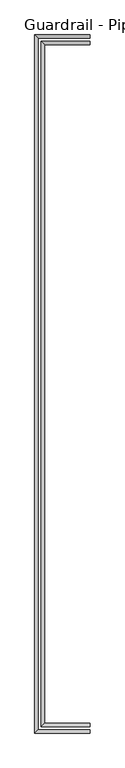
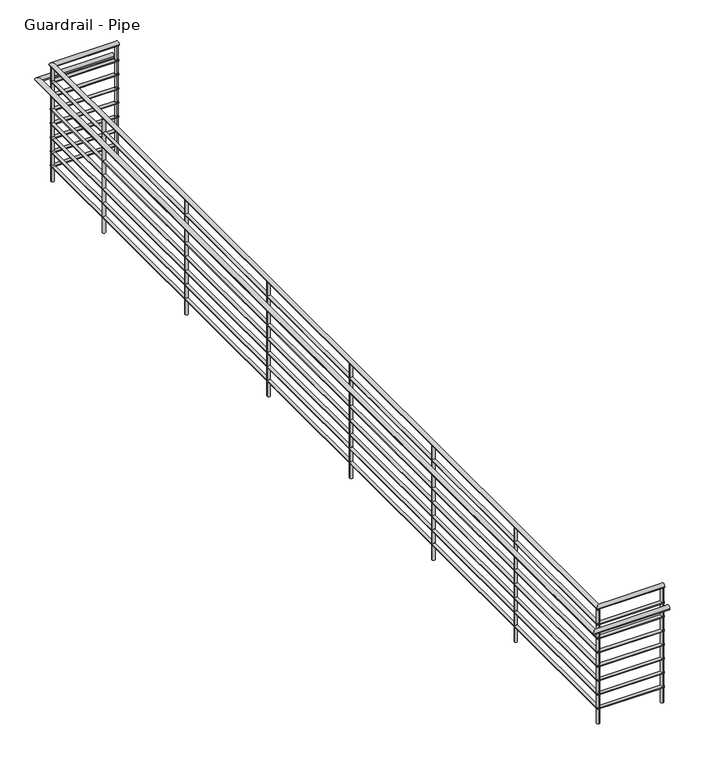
"""IFC4 building model written with IfcOpenShell, lengths in millimetres: railing geometry, Guardrail - Pipe."""

import ifcopenshell
import ifcopenshell.guid

model = None  # the IFC model being written
_history = None  # IfcOwnerHistory: only IFC2X3 demands one
_inside = {}  # id of a spatial element -> (the spatial element, [elements in it])
_under = {}  # id of a project, library or spatial element -> (it, [spatial elements below it])
_declared = {}  # id of a project -> (the project, [libraries it declares])
_typed = {}  # id of a type object -> (the type object, [elements of that type])
_made_of = {}  # id of a material, layer set ... -> (it, [elements and type objects made of it])


def new_model(schema):
    """Start an empty IFC model of exactly this schema.

    Asked for "IFC4X3", IfcOpenShell would pick the latest addendum, in which some entities
    have other attributes; the version numbers below select the first issue.
    IFC2X3 requires an IfcOwnerHistory on every rooted entity: one is made here for all.
    """
    global model, _history
    if schema == "IFC4X3":
        model = ifcopenshell.file(schema_version=(4, 3, 0, 0))
    else:
        model = ifcopenshell.file(schema=schema)
    _inside.clear()
    _under.clear()
    _declared.clear()
    _typed.clear()
    _made_of.clear()
    _history = None
    if model.schema == "IFC2X3":
        org = make("IfcOrganization", Name="unknown")
        user = make(
            "IfcPersonAndOrganization",
            ThePerson=make("IfcPerson", FamilyName="unknown"),
            TheOrganization=org,
        )
        app = make(
            "IfcApplication",
            ApplicationDeveloper=org,
            Version="unknown",
            ApplicationFullName="unknown",
            ApplicationIdentifier="unknown",
        )
        _history = make(
            "IfcOwnerHistory",
            OwningUser=user,
            OwningApplication=app,
            ChangeAction="ADDED",
            CreationDate=0,
        )
    return model


def make(cls, **values):
    """One entity of the class cls with the attributes given. An attribute that is None is left unset."""
    return model.create_entity(
        cls, **{name: value for name, value in values.items() if value is not None}
    )


def rooted(cls, **values):
    """An entity with a GlobalId (a new one), such as an element, a storey or a relation."""
    return make(cls, GlobalId=ifcopenshell.guid.new(), OwnerHistory=_history, **values)


def si_unit(unit_type, name, prefix=None):
    """IfcSIUnit, for example si_unit("LENGTHUNIT", "METRE", prefix="MILLI")."""
    return make("IfcSIUnit", UnitType=unit_type, Prefix=prefix, Name=name)


def assignment(units):
    """IfcUnitAssignment: the units of a project."""
    return None if units is None else make("IfcUnitAssignment", Units=units)


def point(xyz):
    """IfcCartesianPoint."""
    return None if xyz is None else make("IfcCartesianPoint", Coordinates=xyz)


def direction(xyz):
    """IfcDirection."""
    return None if xyz is None else make("IfcDirection", DirectionRatios=xyz)


def frame(location, z_axis=None, x_axis=None):
    """IfcAxis2Placement3D, a coordinate frame: its origin and axes. An axis left out is left unset."""
    return make(
        "IfcAxis2Placement3D",
        Location=point(location),
        Axis=direction(z_axis),
        RefDirection=direction(x_axis),
    )


def frame_2d(location, x_axis=None):
    """IfcAxis2Placement2D, a coordinate frame in the plane: its origin and x axis."""
    return make(
        "IfcAxis2Placement2D", Location=point(location), RefDirection=direction(x_axis)
    )


def origin():
    """The frame at (0, 0, 0) with its axes left unset."""
    return frame((0.0, 0.0, 0.0))


def place(relative_to, where):
    """IfcLocalPlacement: puts the frame where relative to a parent placement (None: the world)."""
    return make(
        "IfcLocalPlacement", PlacementRelTo=relative_to, RelativePlacement=where
    )


def context(
    kind, dimensions, precision=None, world=None, true_north=None, identifier=None
):
    """IfcGeometricRepresentationContext, for example the 3D "Model" context."""
    return make(
        "IfcGeometricRepresentationContext",
        ContextIdentifier=identifier,
        ContextType=kind,
        CoordinateSpaceDimension=dimensions,
        Precision=precision,
        WorldCoordinateSystem=world,
        TrueNorth=true_north,
    )


def project(units=None, contexts=None):
    """IfcProject with its units and contexts."""
    return rooted(
        "IfcProject",
        Name="project",
        RepresentationContexts=contexts,
        UnitsInContext=assignment(units),
    )


def spatial(cls, under=None, at=None, **own):
    """A site, building, storey or space (cls), placed at a placement, below another one or the project."""
    s = rooted(cls, ObjectPlacement=at, **own)
    if under is not None:
        _under.setdefault(under.id(), (under, []))[1].append(s)
    return s


def circle_curve(where, radius):
    """IfcCircle in the frame where."""
    return make("IfcCircle", Position=where, Radius=radius)


def ellipse_curve(where, semi_axis1, semi_axis2):
    """IfcEllipse in the frame where."""
    return make(
        "IfcEllipse", Position=where, SemiAxis1=semi_axis1, SemiAxis2=semi_axis2
    )


def trimmed(basis, trim1, trim2, sense, master):
    """IfcTrimmedCurve: the piece of a basis curve between two trims."""
    return make(
        "IfcTrimmedCurve",
        BasisCurve=basis,
        Trim1=trim1,
        Trim2=trim2,
        SenseAgreement=sense,
        MasterRepresentation=master,
    )


def segment(curve, same_sense, transition):
    """IfcCompositeCurveSegment."""
    return make(
        "IfcCompositeCurveSegment",
        Transition=transition,
        SameSense=same_sense,
        ParentCurve=curve,
    )


def composite_curve(segments, self_intersect=None):
    """IfcCompositeCurve: segments joined end to end."""
    return make("IfcCompositeCurve", Segments=segments, SelfIntersect=self_intersect)


def outline(outer, holes=None, kind="AREA"):
    """IfcArbitraryClosedProfileDef: a profile drawn as a closed curve; with holes, ...WithVoids."""
    if holes is None:
        return make("IfcArbitraryClosedProfileDef", ProfileType=kind, OuterCurve=outer)
    return make(
        "IfcArbitraryProfileDefWithVoids",
        ProfileType=kind,
        OuterCurve=outer,
        InnerCurves=holes,
    )


def extrude(swept, where, along, depth):
    """IfcExtrudedAreaSolid: the profile swept, set in the frame where, extruded along a direction by depth."""
    return make(
        "IfcExtrudedAreaSolid",
        SweptArea=swept,
        Position=where,
        ExtrudedDirection=direction(along),
        Depth=depth,
    )


def shape(context_of_items, identifier, shape_type, items):
    """IfcShapeRepresentation: the items that make up one representation, for example the "Body"."""
    return make(
        "IfcShapeRepresentation",
        ContextOfItems=context_of_items,
        RepresentationIdentifier=identifier,
        RepresentationType=shape_type,
        Items=items,
    )


def source(mapping_origin, context_of_items, identifier, shape_type, items):
    """IfcRepresentationMap: a shape defined once, which mapped items show again and again."""
    return make(
        "IfcRepresentationMap",
        MappingOrigin=mapping_origin,
        MappedRepresentation=shape(context_of_items, identifier, shape_type, items),
    )


def transform(
    local_origin,
    x_axis=None,
    y_axis=None,
    z_axis=None,
    scale=None,
    scale2=None,
    scale3=None,
    uniform=True,
):
    """IfcCartesianTransformationOperator3D, or its non-uniform kind. x_axis, y_axis, z_axis: its Axis1, 2, 3."""
    if uniform:
        return make(
            "IfcCartesianTransformationOperator3D",
            Axis1=direction(x_axis),
            Axis2=direction(y_axis),
            LocalOrigin=point(local_origin),
            Scale=scale,
            Axis3=direction(z_axis),
        )
    return make(
        "IfcCartesianTransformationOperator3DnonUniform",
        Axis1=direction(x_axis),
        Axis2=direction(y_axis),
        LocalOrigin=point(local_origin),
        Scale=scale,
        Axis3=direction(z_axis),
        Scale2=scale2,
        Scale3=scale3,
    )


def mapped(mapping_source, mapping_target):
    """IfcMappedItem: shows the shape of a source again, moved by a transform."""
    return make(
        "IfcMappedItem", MappingSource=mapping_source, MappingTarget=mapping_target
    )


def made_of(thing, what):
    """Note that an element or type object is made of a material, layer set ...; save() writes the relation."""
    if what is not None:
        _made_of.setdefault(what.id(), (what, []))[1].append(thing)
    return thing


def element(
    cls,
    number,
    at=None,
    inside=None,
    cuts=None,
    type_object=None,
    material=None,
    context=None,
    identifier="Body",
    shape_type=None,
    held_by="IfcProductDefinitionShape",
    body=None,
    shapes=None,
    **own,
):
    """One element of the class cls, such as IfcWall. Its Tag is "e" and its number.

    at: its placement. inside: the storey or other place that contains it. cuts: it is an
    opening in that element (IfcRelVoidsElement). A single representation is given by context,
    identifier, shape_type and body (its items); several are given by shapes. held_by: the class
    of the entity that holds the representations. save() writes the other relations.
    """
    e = rooted(cls, Tag="e%d" % number, ObjectPlacement=at, **own)
    if body is not None:
        shapes = [shape(context, identifier, shape_type, body)]
    if shapes is not None:
        e.Representation = make(held_by, Representations=shapes)
    if inside is not None:
        _inside.setdefault(inside.id(), (inside, []))[1].append(e)
    if cuts is not None:
        rooted(
            "IfcRelVoidsElement", RelatingBuildingElement=cuts, RelatedOpeningElement=e
        )
    if type_object is not None:
        _typed.setdefault(type_object.id(), (type_object, []))[1].append(e)
    return made_of(e, material)


def aggregate(whole, parts):
    """IfcRelAggregates: a whole, such as a stair, and the parts it consists of."""
    return rooted("IfcRelAggregates", RelatingObject=whole, RelatedObjects=parts)


def save(model, path):
    """Write the relations noted so far, then the file.

    IfcRelAggregates (storeys below a building ...), IfcRelContainedInSpatialStructure (elements
    in a storey), IfcRelDefinesByType, IfcRelAssociatesMaterial and IfcRelDeclares: one each for
    every whole, place, type object, material and project.
    """
    for whole, parts in _under.values():
        aggregate(whole, parts)
    for where, things in _inside.values():
        rooted(
            "IfcRelContainedInSpatialStructure",
            RelatedElements=things,
            RelatingStructure=where,
        )
    for kind, things in _typed.values():
        rooted("IfcRelDefinesByType", RelatedObjects=things, RelatingType=kind)
    for what, things in _made_of.values():
        rooted("IfcRelAssociatesMaterial", RelatedObjects=things, RelatingMaterial=what)
    for by, libraries in _declared.values():
        rooted("IfcRelDeclares", RelatingContext=by, RelatedDefinitions=libraries)
    model.write(path)


def plane_surface(at):
    """IfcPlane: the flat surface through the origin of the frame at, square to its z axis."""
    return make("IfcPlane", Position=at)


def cylinder_surface(at, radius):
    """IfcCylindricalSurface: all points at the distance radius from the z axis of the frame at."""
    return make("IfcCylindricalSurface", Position=at, Radius=radius)


def advanced_brep(points, edges, surfaces, faces):
    """IfcAdvancedBrep: a solid bounded by faces that lie on surfaces and meet in shared edges.

    An edge is (start, end): straight between two places in points (the first is 0);
    or (start, end, curve); or (start, end, curve, False) where it runs against its curve.
    A face is (place in surfaces, loops), or (place, loops, False) where it looks against
    its surface's normal. A loop lists edges by number (the first is 1), with a minus sign
    where the edge is run from its end to its start. The first loop is the outer one.
    """
    corners = [point(p) for p in points]
    vertices = [make("IfcVertexPoint", VertexGeometry=c) for c in corners]
    made = []
    for start, end, *more in edges:
        made.append(
            make(
                "IfcEdgeCurve",
                EdgeStart=vertices[start],
                EdgeEnd=vertices[end],
                EdgeGeometry=more[0] if more else make("IfcPolyline", Points=[corners[start], corners[end]]),
                SameSense=more[1] if len(more) > 1 else True,
            )
        )
    hull = []
    for where, loops, *sense in faces:
        bounds = []
        for j, loop in enumerate(loops):
            ring = [make("IfcOrientedEdge", EdgeElement=made[abs(k) - 1], Orientation=k > 0) for k in loop]
            bounds.append(
                make(
                    "IfcFaceOuterBound" if j == 0 else "IfcFaceBound",
                    Bound=make("IfcEdgeLoop", EdgeList=ring),
                    Orientation=True,
                )
            )
        hull.append(make("IfcAdvancedFace", Bounds=bounds, FaceSurface=surfaces[where], SameSense=sense[0] if sense else True))
    return make("IfcAdvancedBrep", Outer=make("IfcClosedShell", CfsFaces=hull))


def guardrail_pipe_d5d2aec2(model_context):
    return source(origin(), model_context, "Body", "SolidModel", [
        advanced_brep(
        [(11534.3313551, 21840.75, 4705.35), (11534.3313551, 21878.85, 4705.35), (10956.4813551, 21840.75, 4705.35), (10994.5813551, 21878.85, 4705.35), (10956.4813551, 29956.05, 4705.35), (10994.5813551, 29917.95, 4705.35), (11534.3313551, 29956.05, 4705.35), (11534.3313551, 29917.95, 4705.35)],
        [
            (0, 1, circle_curve(frame((11534.3313551, 21859.8, 4705.35), z_axis=(1.0, 0.0, 0.0), x_axis=(0.0, 1.0, 0.0)), 19.05)),
            (1, 0, circle_curve(frame((11534.3313551, 21859.8, 4705.35), z_axis=(1.0, 0.0, 0.0), x_axis=(0.0, 1.0, 0.0)), 19.05)),
            (0, 2),
            (2, 3, ellipse_curve(frame((10975.5313551, 21859.8, 4705.35), z_axis=(0.7071067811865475, -0.7071067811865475, 0.0), x_axis=(0.7071067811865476, 0.7071067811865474, 0.0)), 26.9407684, 19.05)),
            (3, 1),
            (3, 2, ellipse_curve(frame((10975.5313551, 21859.8, 4705.35), z_axis=(0.7071067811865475, -0.7071067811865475, 0.0), x_axis=(0.7071067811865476, 0.7071067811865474, 0.0)), 26.9407684, 19.05)),
            (2, 4),
            (4, 5, ellipse_curve(frame((10975.5313551, 29937.0, 4705.35), z_axis=(-0.7071067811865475, -0.7071067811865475, 0.0), x_axis=(0.7071067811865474, -0.7071067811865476, 0.0)), 26.9407684, 19.05)),
            (5, 3),
            (5, 4, ellipse_curve(frame((10975.5313551, 29937.0, 4705.35), z_axis=(-0.7071067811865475, -0.7071067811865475, 0.0), x_axis=(0.7071067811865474, -0.7071067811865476, 0.0)), 26.9407684, 19.05)),
            (6, 7, circle_curve(frame((11534.3313551, 29937.0, 4705.35), z_axis=(1.0, 0.0, 0.0), x_axis=(0.0, -1.0, 0.0)), 19.05)),
            (7, 6, circle_curve(frame((11534.3313551, 29937.0, 4705.35), z_axis=(1.0, 0.0, 0.0), x_axis=(0.0, -1.0, 0.0)), 19.05)),
            (4, 6),
            (7, 5),
        ],
        [
            plane_surface(frame((11534.3313551, 21859.8, 4724.4), z_axis=(1.0, 0.0, 0.0), x_axis=(0.0, -1.0, 0.0))),
            cylinder_surface(frame((11534.3313551, 21859.8, 4705.35), z_axis=(1.0, 0.0, 0.0), x_axis=(0.0, 1.0, 0.0)), 19.05),
            cylinder_surface(frame((10975.5313551, 21859.8, 4705.35), z_axis=(0.0, -1.0, 0.0), x_axis=(1.0, 0.0, 0.0)), 19.05),
            plane_surface(frame((11534.3313551, 29937.0, 4724.4), z_axis=(1.0, 0.0, 0.0), x_axis=(0.0, 1.0, 0.0))),
            cylinder_surface(frame((10975.5313551, 29937.0, 4705.35), z_axis=(-1.0, 0.0, 0.0), x_axis=(0.0, -1.0, 0.0)), 19.05),
        ],
        [
            (0, [[1, 2]]),
            (1, [[-1, 3, 4, 5]]),
            (1, [[-2, -5, 6, -3]]),
            (2, [[-4, 7, 8, 9]]),
            (2, [[-6, -9, 10, -7]]),
            (3, [[11, 12]]),
            (4, [[-8, 13, -12, 14]]),
            (4, [[-10, -14, -11, -13]]),
        ],
    ),
        advanced_brep(
        [(11534.3313551, 21847.1, 4559.3), (11534.3313551, 21872.5, 4559.3), (10962.8313551, 21847.1, 4559.3), (10988.2313551, 21872.5, 4559.3), (10962.8313551, 29949.7, 4559.3), (10988.2313551, 29924.3, 4559.3), (11534.3313551, 29949.7, 4559.3), (11534.3313551, 29924.3, 4559.3)],
        [
            (0, 1, circle_curve(frame((11534.3313551, 21859.8, 4559.3), z_axis=(1.0, 0.0, 0.0), x_axis=(0.0, 1.0, 0.0)), 12.7)),
            (1, 0, circle_curve(frame((11534.3313551, 21859.8, 4559.3), z_axis=(1.0, 0.0, 0.0), x_axis=(0.0, 1.0, 0.0)), 12.7)),
            (0, 2),
            (2, 3, ellipse_curve(frame((10975.5313551, 21859.8, 4559.3), z_axis=(0.7071067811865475, -0.7071067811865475, 0.0), x_axis=(0.7071067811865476, 0.7071067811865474, 0.0)), 17.9605122, 12.7)),
            (3, 1),
            (3, 2, ellipse_curve(frame((10975.5313551, 21859.8, 4559.3), z_axis=(0.7071067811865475, -0.7071067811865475, 0.0), x_axis=(0.7071067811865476, 0.7071067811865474, 0.0)), 17.9605122, 12.7)),
            (2, 4),
            (4, 5, ellipse_curve(frame((10975.5313551, 29937.0, 4559.3), z_axis=(-0.7071067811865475, -0.7071067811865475, 0.0), x_axis=(0.7071067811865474, -0.7071067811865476, 0.0)), 17.9605122, 12.7)),
            (5, 3),
            (5, 4, ellipse_curve(frame((10975.5313551, 29937.0, 4559.3), z_axis=(-0.7071067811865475, -0.7071067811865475, 0.0), x_axis=(0.7071067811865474, -0.7071067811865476, 0.0)), 17.9605122, 12.7)),
            (6, 7, circle_curve(frame((11534.3313551, 29937.0, 4559.3), z_axis=(1.0, 0.0, 0.0), x_axis=(0.0, -1.0, 0.0)), 12.7)),
            (7, 6, circle_curve(frame((11534.3313551, 29937.0, 4559.3), z_axis=(1.0, 0.0, 0.0), x_axis=(0.0, -1.0, 0.0)), 12.7)),
            (4, 6),
            (7, 5),
        ],
        [
            plane_surface(frame((11534.3313551, 21859.8, 4572.0), z_axis=(1.0, 0.0, 0.0), x_axis=(0.0, -1.0, 0.0))),
            cylinder_surface(frame((11534.3313551, 21859.8, 4559.3), z_axis=(1.0, 0.0, 0.0), x_axis=(0.0, 1.0, 0.0)), 12.7),
            cylinder_surface(frame((10975.5313551, 21859.8, 4559.3), z_axis=(0.0, -1.0, 0.0), x_axis=(1.0, 0.0, 0.0)), 12.7),
            plane_surface(frame((11534.3313551, 29937.0, 4572.0), z_axis=(1.0, 0.0, 0.0), x_axis=(0.0, 1.0, 0.0))),
            cylinder_surface(frame((10975.5313551, 29937.0, 4559.3), z_axis=(-1.0, 0.0, 0.0), x_axis=(0.0, -1.0, 0.0)), 12.7),
        ],
        [
            (0, [[1, 2]]),
            (1, [[-1, 3, 4, 5]]),
            (1, [[-2, -5, 6, -3]]),
            (2, [[-4, 7, 8, 9]]),
            (2, [[-6, -9, 10, -7]]),
            (3, [[11, 12]]),
            (4, [[-8, 13, -12, 14]]),
            (4, [[-10, -14, -11, -13]]),
        ],
    ),
        advanced_brep(
        [(11534.3313551, 21764.55, 4552.95), (11534.3313551, 21802.65, 4552.95), (10880.2813551, 21764.55, 4552.95), (10918.3813551, 21802.65, 4552.95), (10880.2813551, 30032.25, 4552.95), (10918.3813551, 29994.15, 4552.95), (11534.3313551, 30032.25, 4552.95), (11534.3313551, 29994.15, 4552.95)],
        [
            (0, 1, circle_curve(frame((11534.3313551, 21783.6, 4552.95), z_axis=(1.0, 0.0, 0.0), x_axis=(0.0, 1.0, 0.0)), 19.05)),
            (1, 0, circle_curve(frame((11534.3313551, 21783.6, 4552.95), z_axis=(1.0, 0.0, 0.0), x_axis=(0.0, 1.0, 0.0)), 19.05)),
            (0, 2),
            (2, 3, ellipse_curve(frame((10899.3313551, 21783.6, 4552.95), z_axis=(0.7071067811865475, -0.7071067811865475, 0.0), x_axis=(0.7071067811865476, 0.7071067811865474, 0.0)), 26.9407684, 19.05)),
            (3, 1),
            (3, 2, ellipse_curve(frame((10899.3313551, 21783.6, 4552.95), z_axis=(0.7071067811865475, -0.7071067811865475, 0.0), x_axis=(0.7071067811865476, 0.7071067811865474, 0.0)), 26.9407684, 19.05)),
            (2, 4),
            (4, 5, ellipse_curve(frame((10899.3313551, 30013.2, 4552.95), z_axis=(-0.7071067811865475, -0.7071067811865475, 0.0), x_axis=(0.7071067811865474, -0.7071067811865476, 0.0)), 26.9407684, 19.05)),
            (5, 3),
            (5, 4, ellipse_curve(frame((10899.3313551, 30013.2, 4552.95), z_axis=(-0.7071067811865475, -0.7071067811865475, 0.0), x_axis=(0.7071067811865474, -0.7071067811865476, 0.0)), 26.9407684, 19.05)),
            (6, 7, circle_curve(frame((11534.3313551, 30013.2, 4552.95), z_axis=(1.0, 0.0, 0.0), x_axis=(0.0, -1.0, 0.0)), 19.05)),
            (7, 6, circle_curve(frame((11534.3313551, 30013.2, 4552.95), z_axis=(1.0, 0.0, 0.0), x_axis=(0.0, -1.0, 0.0)), 19.05)),
            (4, 6),
            (7, 5),
        ],
        [
            plane_surface(frame((11534.3313551, 21783.6, 4572.0), z_axis=(1.0, 0.0, 0.0), x_axis=(0.0, -1.0, 0.0))),
            cylinder_surface(frame((11534.3313551, 21783.6, 4552.95), z_axis=(1.0, 0.0, 0.0), x_axis=(0.0, 1.0, 0.0)), 19.05),
            cylinder_surface(frame((10899.3313551, 21783.6, 4552.95), z_axis=(0.0, -1.0, 0.0), x_axis=(1.0, 0.0, 0.0)), 19.05),
            plane_surface(frame((11534.3313551, 30013.2, 4572.0), z_axis=(1.0, 0.0, 0.0), x_axis=(0.0, 1.0, 0.0))),
            cylinder_surface(frame((10899.3313551, 30013.2, 4552.95), z_axis=(-1.0, 0.0, 0.0), x_axis=(0.0, -1.0, 0.0)), 19.05),
        ],
        [
            (0, [[1, 2]]),
            (1, [[-1, 3, 4, 5]]),
            (1, [[-2, -5, 6, -3]]),
            (2, [[-4, 7, 8, 9]]),
            (2, [[-6, -9, 10, -7]]),
            (3, [[11, 12]]),
            (4, [[-8, 13, -12, 14]]),
            (4, [[-10, -14, -11, -13]]),
        ],
    ),
        advanced_brep(
        [(11534.3313551, 21847.1, 4432.3), (11534.3313551, 21872.5, 4432.3), (10962.8313551, 21847.1, 4432.3), (10988.2313551, 21872.5, 4432.3), (10962.8313551, 29949.7, 4432.3), (10988.2313551, 29924.3, 4432.3), (11534.3313551, 29949.7, 4432.3), (11534.3313551, 29924.3, 4432.3)],
        [
            (0, 1, circle_curve(frame((11534.3313551, 21859.8, 4432.3), z_axis=(1.0, 0.0, 0.0), x_axis=(0.0, 1.0, 0.0)), 12.7)),
            (1, 0, circle_curve(frame((11534.3313551, 21859.8, 4432.3), z_axis=(1.0, 0.0, 0.0), x_axis=(0.0, 1.0, 0.0)), 12.7)),
            (0, 2),
            (2, 3, ellipse_curve(frame((10975.5313551, 21859.8, 4432.3), z_axis=(0.7071067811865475, -0.7071067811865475, 0.0), x_axis=(0.7071067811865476, 0.7071067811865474, 0.0)), 17.9605122, 12.7)),
            (3, 1),
            (3, 2, ellipse_curve(frame((10975.5313551, 21859.8, 4432.3), z_axis=(0.7071067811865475, -0.7071067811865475, 0.0), x_axis=(0.7071067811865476, 0.7071067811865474, 0.0)), 17.9605122, 12.7)),
            (2, 4),
            (4, 5, ellipse_curve(frame((10975.5313551, 29937.0, 4432.3), z_axis=(-0.7071067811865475, -0.7071067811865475, 0.0), x_axis=(0.7071067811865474, -0.7071067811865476, 0.0)), 17.9605122, 12.7)),
            (5, 3),
            (5, 4, ellipse_curve(frame((10975.5313551, 29937.0, 4432.3), z_axis=(-0.7071067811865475, -0.7071067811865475, 0.0), x_axis=(0.7071067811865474, -0.7071067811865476, 0.0)), 17.9605122, 12.7)),
            (6, 7, circle_curve(frame((11534.3313551, 29937.0, 4432.3), z_axis=(1.0, 0.0, 0.0), x_axis=(0.0, -1.0, 0.0)), 12.7)),
            (7, 6, circle_curve(frame((11534.3313551, 29937.0, 4432.3), z_axis=(1.0, 0.0, 0.0), x_axis=(0.0, -1.0, 0.0)), 12.7)),
            (4, 6),
            (7, 5),
        ],
        [
            plane_surface(frame((11534.3313551, 21859.8, 4445.0), z_axis=(1.0, 0.0, 0.0), x_axis=(0.0, -1.0, 0.0))),
            cylinder_surface(frame((11534.3313551, 21859.8, 4432.3), z_axis=(1.0, 0.0, 0.0), x_axis=(0.0, 1.0, 0.0)), 12.7),
            cylinder_surface(frame((10975.5313551, 21859.8, 4432.3), z_axis=(0.0, -1.0, 0.0), x_axis=(1.0, 0.0, 0.0)), 12.7),
            plane_surface(frame((11534.3313551, 29937.0, 4445.0), z_axis=(1.0, 0.0, 0.0), x_axis=(0.0, 1.0, 0.0))),
            cylinder_surface(frame((10975.5313551, 29937.0, 4432.3), z_axis=(-1.0, 0.0, 0.0), x_axis=(0.0, -1.0, 0.0)), 12.7),
        ],
        [
            (0, [[1, 2]]),
            (1, [[-1, 3, 4, 5]]),
            (1, [[-2, -5, 6, -3]]),
            (2, [[-4, 7, 8, 9]]),
            (2, [[-6, -9, 10, -7]]),
            (3, [[11, 12]]),
            (4, [[-8, 13, -12, 14]]),
            (4, [[-10, -14, -11, -13]]),
        ],
    ),
        advanced_brep(
        [(11534.3313551, 21847.1, 4305.3), (11534.3313551, 21872.5, 4305.3), (10962.8313551, 21847.1, 4305.3), (10988.2313551, 21872.5, 4305.3), (10962.8313551, 29949.7, 4305.3), (10988.2313551, 29924.3, 4305.3), (11534.3313551, 29949.7, 4305.3), (11534.3313551, 29924.3, 4305.3)],
        [
            (0, 1, circle_curve(frame((11534.3313551, 21859.8, 4305.3), z_axis=(1.0, 0.0, 0.0), x_axis=(0.0, 1.0, 0.0)), 12.7)),
            (1, 0, circle_curve(frame((11534.3313551, 21859.8, 4305.3), z_axis=(1.0, 0.0, 0.0), x_axis=(0.0, 1.0, 0.0)), 12.7)),
            (0, 2),
            (2, 3, ellipse_curve(frame((10975.5313551, 21859.8, 4305.3), z_axis=(0.7071067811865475, -0.7071067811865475, 0.0), x_axis=(0.7071067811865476, 0.7071067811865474, 0.0)), 17.9605122, 12.7)),
            (3, 1),
            (3, 2, ellipse_curve(frame((10975.5313551, 21859.8, 4305.3), z_axis=(0.7071067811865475, -0.7071067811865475, 0.0), x_axis=(0.7071067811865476, 0.7071067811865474, 0.0)), 17.9605122, 12.7)),
            (2, 4),
            (4, 5, ellipse_curve(frame((10975.5313551, 29937.0, 4305.3), z_axis=(-0.7071067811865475, -0.7071067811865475, 0.0), x_axis=(0.7071067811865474, -0.7071067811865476, 0.0)), 17.9605122, 12.7)),
            (5, 3),
            (5, 4, ellipse_curve(frame((10975.5313551, 29937.0, 4305.3), z_axis=(-0.7071067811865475, -0.7071067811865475, 0.0), x_axis=(0.7071067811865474, -0.7071067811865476, 0.0)), 17.9605122, 12.7)),
            (6, 7, circle_curve(frame((11534.3313551, 29937.0, 4305.3), z_axis=(1.0, 0.0, 0.0), x_axis=(0.0, -1.0, 0.0)), 12.7)),
            (7, 6, circle_curve(frame((11534.3313551, 29937.0, 4305.3), z_axis=(1.0, 0.0, 0.0), x_axis=(0.0, -1.0, 0.0)), 12.7)),
            (4, 6),
            (7, 5),
        ],
        [
            plane_surface(frame((11534.3313551, 21859.8, 4318.0), z_axis=(1.0, 0.0, 0.0), x_axis=(0.0, -1.0, 0.0))),
            cylinder_surface(frame((11534.3313551, 21859.8, 4305.3), z_axis=(1.0, 0.0, 0.0), x_axis=(0.0, 1.0, 0.0)), 12.7),
            cylinder_surface(frame((10975.5313551, 21859.8, 4305.3), z_axis=(0.0, -1.0, 0.0), x_axis=(1.0, 0.0, 0.0)), 12.7),
            plane_surface(frame((11534.3313551, 29937.0, 4318.0), z_axis=(1.0, 0.0, 0.0), x_axis=(0.0, 1.0, 0.0))),
            cylinder_surface(frame((10975.5313551, 29937.0, 4305.3), z_axis=(-1.0, 0.0, 0.0), x_axis=(0.0, -1.0, 0.0)), 12.7),
        ],
        [
            (0, [[1, 2]]),
            (1, [[-1, 3, 4, 5]]),
            (1, [[-2, -5, 6, -3]]),
            (2, [[-4, 7, 8, 9]]),
            (2, [[-6, -9, 10, -7]]),
            (3, [[11, 12]]),
            (4, [[-8, 13, -12, 14]]),
            (4, [[-10, -14, -11, -13]]),
        ],
    ),
        advanced_brep(
        [(11534.3313551, 21847.1, 4178.3), (11534.3313551, 21872.5, 4178.3), (10962.8313551, 21847.1, 4178.3), (10988.2313551, 21872.5, 4178.3), (10962.8313551, 29949.7, 4178.3), (10988.2313551, 29924.3, 4178.3), (11534.3313551, 29949.7, 4178.3), (11534.3313551, 29924.3, 4178.3)],
        [
            (0, 1, circle_curve(frame((11534.3313551, 21859.8, 4178.3), z_axis=(1.0, 0.0, 0.0), x_axis=(0.0, 1.0, 0.0)), 12.7)),
            (1, 0, circle_curve(frame((11534.3313551, 21859.8, 4178.3), z_axis=(1.0, 0.0, 0.0), x_axis=(0.0, 1.0, 0.0)), 12.7)),
            (0, 2),
            (2, 3, ellipse_curve(frame((10975.5313551, 21859.8, 4178.3), z_axis=(0.7071067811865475, -0.7071067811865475, 0.0), x_axis=(0.7071067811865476, 0.7071067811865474, 0.0)), 17.9605122, 12.7)),
            (3, 1),
            (3, 2, ellipse_curve(frame((10975.5313551, 21859.8, 4178.3), z_axis=(0.7071067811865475, -0.7071067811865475, 0.0), x_axis=(0.7071067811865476, 0.7071067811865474, 0.0)), 17.9605122, 12.7)),
            (2, 4),
            (4, 5, ellipse_curve(frame((10975.5313551, 29937.0, 4178.3), z_axis=(-0.7071067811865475, -0.7071067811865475, 0.0), x_axis=(0.7071067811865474, -0.7071067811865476, 0.0)), 17.9605122, 12.7)),
            (5, 3),
            (5, 4, ellipse_curve(frame((10975.5313551, 29937.0, 4178.3), z_axis=(-0.7071067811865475, -0.7071067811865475, 0.0), x_axis=(0.7071067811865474, -0.7071067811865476, 0.0)), 17.9605122, 12.7)),
            (6, 7, circle_curve(frame((11534.3313551, 29937.0, 4178.3), z_axis=(1.0, 0.0, 0.0), x_axis=(0.0, -1.0, 0.0)), 12.7)),
            (7, 6, circle_curve(frame((11534.3313551, 29937.0, 4178.3), z_axis=(1.0, 0.0, 0.0), x_axis=(0.0, -1.0, 0.0)), 12.7)),
            (4, 6),
            (7, 5),
        ],
        [
            plane_surface(frame((11534.3313551, 21859.8, 4191.0), z_axis=(1.0, 0.0, 0.0), x_axis=(0.0, -1.0, 0.0))),
            cylinder_surface(frame((11534.3313551, 21859.8, 4178.3), z_axis=(1.0, 0.0, 0.0), x_axis=(0.0, 1.0, 0.0)), 12.7),
            cylinder_surface(frame((10975.5313551, 21859.8, 4178.3), z_axis=(0.0, -1.0, 0.0), x_axis=(1.0, 0.0, 0.0)), 12.7),
            plane_surface(frame((11534.3313551, 29937.0, 4191.0), z_axis=(1.0, 0.0, 0.0), x_axis=(0.0, 1.0, 0.0))),
            cylinder_surface(frame((10975.5313551, 29937.0, 4178.3), z_axis=(-1.0, 0.0, 0.0), x_axis=(0.0, -1.0, 0.0)), 12.7),
        ],
        [
            (0, [[1, 2]]),
            (1, [[-1, 3, 4, 5]]),
            (1, [[-2, -5, 6, -3]]),
            (2, [[-4, 7, 8, 9]]),
            (2, [[-6, -9, 10, -7]]),
            (3, [[11, 12]]),
            (4, [[-8, 13, -12, 14]]),
            (4, [[-10, -14, -11, -13]]),
        ],
    ),
        advanced_brep(
        [(11534.3313551, 21847.1, 4051.3), (11534.3313551, 21872.5, 4051.3), (10962.8313551, 21847.1, 4051.3), (10988.2313551, 21872.5, 4051.3), (10962.8313551, 29949.7, 4051.3), (10988.2313551, 29924.3, 4051.3), (11534.3313551, 29949.7, 4051.3), (11534.3313551, 29924.3, 4051.3)],
        [
            (0, 1, circle_curve(frame((11534.3313551, 21859.8, 4051.3), z_axis=(1.0, 0.0, 0.0), x_axis=(0.0, 1.0, 0.0)), 12.7)),
            (1, 0, circle_curve(frame((11534.3313551, 21859.8, 4051.3), z_axis=(1.0, 0.0, 0.0), x_axis=(0.0, 1.0, 0.0)), 12.7)),
            (0, 2),
            (2, 3, ellipse_curve(frame((10975.5313551, 21859.8, 4051.3), z_axis=(0.7071067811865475, -0.7071067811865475, 0.0), x_axis=(0.7071067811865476, 0.7071067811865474, 0.0)), 17.9605122, 12.7)),
            (3, 1),
            (3, 2, ellipse_curve(frame((10975.5313551, 21859.8, 4051.3), z_axis=(0.7071067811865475, -0.7071067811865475, 0.0), x_axis=(0.7071067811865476, 0.7071067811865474, 0.0)), 17.9605122, 12.7)),
            (2, 4),
            (4, 5, ellipse_curve(frame((10975.5313551, 29937.0, 4051.3), z_axis=(-0.7071067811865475, -0.7071067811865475, 0.0), x_axis=(0.7071067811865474, -0.7071067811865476, 0.0)), 17.9605122, 12.7)),
            (5, 3),
            (5, 4, ellipse_curve(frame((10975.5313551, 29937.0, 4051.3), z_axis=(-0.7071067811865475, -0.7071067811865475, 0.0), x_axis=(0.7071067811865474, -0.7071067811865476, 0.0)), 17.9605122, 12.7)),
            (6, 7, circle_curve(frame((11534.3313551, 29937.0, 4051.3), z_axis=(1.0, 0.0, 0.0), x_axis=(0.0, -1.0, 0.0)), 12.7)),
            (7, 6, circle_curve(frame((11534.3313551, 29937.0, 4051.3), z_axis=(1.0, 0.0, 0.0), x_axis=(0.0, -1.0, 0.0)), 12.7)),
            (4, 6),
            (7, 5),
        ],
        [
            plane_surface(frame((11534.3313551, 21859.8, 4064.0), z_axis=(1.0, 0.0, 0.0), x_axis=(0.0, -1.0, 0.0))),
            cylinder_surface(frame((11534.3313551, 21859.8, 4051.3), z_axis=(1.0, 0.0, 0.0), x_axis=(0.0, 1.0, 0.0)), 12.7),
            cylinder_surface(frame((10975.5313551, 21859.8, 4051.3), z_axis=(0.0, -1.0, 0.0), x_axis=(1.0, 0.0, 0.0)), 12.7),
            plane_surface(frame((11534.3313551, 29937.0, 4064.0), z_axis=(1.0, 0.0, 0.0), x_axis=(0.0, 1.0, 0.0))),
            cylinder_surface(frame((10975.5313551, 29937.0, 4051.3), z_axis=(-1.0, 0.0, 0.0), x_axis=(0.0, -1.0, 0.0)), 12.7),
        ],
        [
            (0, [[1, 2]]),
            (1, [[-1, 3, 4, 5]]),
            (1, [[-2, -5, 6, -3]]),
            (2, [[-4, 7, 8, 9]]),
            (2, [[-6, -9, 10, -7]]),
            (3, [[11, 12]]),
            (4, [[-8, 13, -12, 14]]),
            (4, [[-10, -14, -11, -13]]),
        ],
    ),
        advanced_brep(
        [(11534.3313551, 21847.1, 3924.3), (11534.3313551, 21872.5, 3924.3), (10962.8313551, 21847.1, 3924.3), (10988.2313551, 21872.5, 3924.3), (10962.8313551, 29949.7, 3924.3), (10988.2313551, 29924.3, 3924.3), (11534.3313551, 29949.7, 3924.3), (11534.3313551, 29924.3, 3924.3)],
        [
            (0, 1, circle_curve(frame((11534.3313551, 21859.8, 3924.3), z_axis=(1.0, 0.0, 0.0), x_axis=(0.0, 1.0, 0.0)), 12.7)),
            (1, 0, circle_curve(frame((11534.3313551, 21859.8, 3924.3), z_axis=(1.0, 0.0, 0.0), x_axis=(0.0, 1.0, 0.0)), 12.7)),
            (0, 2),
            (2, 3, ellipse_curve(frame((10975.5313551, 21859.8, 3924.3), z_axis=(0.7071067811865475, -0.7071067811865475, 0.0), x_axis=(0.7071067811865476, 0.7071067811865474, 0.0)), 17.9605122, 12.7)),
            (3, 1),
            (3, 2, ellipse_curve(frame((10975.5313551, 21859.8, 3924.3), z_axis=(0.7071067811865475, -0.7071067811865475, 0.0), x_axis=(0.7071067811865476, 0.7071067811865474, 0.0)), 17.9605122, 12.7)),
            (2, 4),
            (4, 5, ellipse_curve(frame((10975.5313551, 29937.0, 3924.3), z_axis=(-0.7071067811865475, -0.7071067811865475, 0.0), x_axis=(0.7071067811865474, -0.7071067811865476, 0.0)), 17.9605122, 12.7)),
            (5, 3),
            (5, 4, ellipse_curve(frame((10975.5313551, 29937.0, 3924.3), z_axis=(-0.7071067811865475, -0.7071067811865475, 0.0), x_axis=(0.7071067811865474, -0.7071067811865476, 0.0)), 17.9605122, 12.7)),
            (6, 7, circle_curve(frame((11534.3313551, 29937.0, 3924.3), z_axis=(1.0, 0.0, 0.0), x_axis=(0.0, -1.0, 0.0)), 12.7)),
            (7, 6, circle_curve(frame((11534.3313551, 29937.0, 3924.3), z_axis=(1.0, 0.0, 0.0), x_axis=(0.0, -1.0, 0.0)), 12.7)),
            (4, 6),
            (7, 5),
        ],
        [
            plane_surface(frame((11534.3313551, 21859.8, 3937.0), z_axis=(1.0, 0.0, 0.0), x_axis=(0.0, -1.0, 0.0))),
            cylinder_surface(frame((11534.3313551, 21859.8, 3924.3), z_axis=(1.0, 0.0, 0.0), x_axis=(0.0, 1.0, 0.0)), 12.7),
            cylinder_surface(frame((10975.5313551, 21859.8, 3924.3), z_axis=(0.0, -1.0, 0.0), x_axis=(1.0, 0.0, 0.0)), 12.7),
            plane_surface(frame((11534.3313551, 29937.0, 3937.0), z_axis=(1.0, 0.0, 0.0), x_axis=(0.0, 1.0, 0.0))),
            cylinder_surface(frame((10975.5313551, 29937.0, 3924.3), z_axis=(-1.0, 0.0, 0.0), x_axis=(0.0, -1.0, 0.0)), 12.7),
        ],
        [
            (0, [[1, 2]]),
            (1, [[-1, 3, 4, 5]]),
            (1, [[-2, -5, 6, -3]]),
            (2, [[-4, 7, 8, 9]]),
            (2, [[-6, -9, 10, -7]]),
            (3, [[11, 12]]),
            (4, [[-8, 13, -12, 14]]),
            (4, [[-10, -14, -11, -13]]),
        ],
    ),
        advanced_brep(
        [(11534.3313551, 21847.1, 3797.3), (11534.3313551, 21872.5, 3797.3), (10962.8313551, 21847.1, 3797.3), (10988.2313551, 21872.5, 3797.3), (10962.8313551, 29949.7, 3797.3), (10988.2313551, 29924.3, 3797.3), (11534.3313551, 29949.7, 3797.3), (11534.3313551, 29924.3, 3797.3)],
        [
            (0, 1, circle_curve(frame((11534.3313551, 21859.8, 3797.3), z_axis=(1.0, 0.0, 0.0), x_axis=(0.0, 1.0, 0.0)), 12.7)),
            (1, 0, circle_curve(frame((11534.3313551, 21859.8, 3797.3), z_axis=(1.0, 0.0, 0.0), x_axis=(0.0, 1.0, 0.0)), 12.7)),
            (0, 2),
            (2, 3, ellipse_curve(frame((10975.5313551, 21859.8, 3797.3), z_axis=(0.7071067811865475, -0.7071067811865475, 0.0), x_axis=(0.7071067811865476, 0.7071067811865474, 0.0)), 17.9605122, 12.7)),
            (3, 1),
            (3, 2, ellipse_curve(frame((10975.5313551, 21859.8, 3797.3), z_axis=(0.7071067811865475, -0.7071067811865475, 0.0), x_axis=(0.7071067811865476, 0.7071067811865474, 0.0)), 17.9605122, 12.7)),
            (2, 4),
            (4, 5, ellipse_curve(frame((10975.5313551, 29937.0, 3797.3), z_axis=(-0.7071067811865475, -0.7071067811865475, 0.0), x_axis=(0.7071067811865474, -0.7071067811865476, 0.0)), 17.9605122, 12.7)),
            (5, 3),
            (5, 4, ellipse_curve(frame((10975.5313551, 29937.0, 3797.3), z_axis=(-0.7071067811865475, -0.7071067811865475, 0.0), x_axis=(0.7071067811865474, -0.7071067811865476, 0.0)), 17.9605122, 12.7)),
            (6, 7, circle_curve(frame((11534.3313551, 29937.0, 3797.3), z_axis=(1.0, 0.0, 0.0), x_axis=(0.0, -1.0, 0.0)), 12.7)),
            (7, 6, circle_curve(frame((11534.3313551, 29937.0, 3797.3), z_axis=(1.0, 0.0, 0.0), x_axis=(0.0, -1.0, 0.0)), 12.7)),
            (4, 6),
            (7, 5),
        ],
        [
            plane_surface(frame((11534.3313551, 21859.8, 3810.0), z_axis=(1.0, 0.0, 0.0), x_axis=(0.0, -1.0, 0.0))),
            cylinder_surface(frame((11534.3313551, 21859.8, 3797.3), z_axis=(1.0, 0.0, 0.0), x_axis=(0.0, 1.0, 0.0)), 12.7),
            cylinder_surface(frame((10975.5313551, 21859.8, 3797.3), z_axis=(0.0, -1.0, 0.0), x_axis=(1.0, 0.0, 0.0)), 12.7),
            plane_surface(frame((11534.3313551, 29937.0, 3810.0), z_axis=(1.0, 0.0, 0.0), x_axis=(0.0, 1.0, 0.0))),
            cylinder_surface(frame((10975.5313551, 29937.0, 3797.3), z_axis=(-1.0, 0.0, 0.0), x_axis=(0.0, -1.0, 0.0)), 12.7),
        ],
        [
            (0, [[1, 2]]),
            (1, [[-1, 3, 4, 5]]),
            (1, [[-2, -5, 6, -3]]),
            (2, [[-4, 7, 8, 9]]),
            (2, [[-6, -9, 10, -7]]),
            (3, [[11, 12]]),
            (4, [[-8, 13, -12, 14]]),
            (4, [[-10, -14, -11, -13]]),
        ],
    ),
        extrude(outline(composite_curve([segment(trimmed(circle_curve(frame_2d((10975.5313551, 29175.0)), 12.7), [point((10962.8313551, 29175.0))], [point((10988.2313551, 29175.0))], False, "CARTESIAN"), True, "CONTINUOUS"), segment(trimmed(circle_curve(frame_2d((10975.5313551, 29175.0)), 12.7), [point((10988.2313551, 29175.0))], [point((10962.8313551, 29175.0))], False, "CARTESIAN"), True, "CONTINUOUS")], self_intersect=False)), frame((0.0, 0.0, 3657.6), z_axis=(0.0, 0.0, 1.0), x_axis=(1.0, 0.0, 0.0)), (0.0, 0.0, 1.0), 1028.7),
        extrude(outline(composite_curve([segment(trimmed(circle_curve(frame_2d((10975.5313551, 27955.8)), 12.7), [point((10962.8313551, 27955.8))], [point((10988.2313551, 27955.8))], False, "CARTESIAN"), True, "CONTINUOUS"), segment(trimmed(circle_curve(frame_2d((10975.5313551, 27955.8)), 12.7), [point((10988.2313551, 27955.8))], [point((10962.8313551, 27955.8))], False, "CARTESIAN"), True, "CONTINUOUS")], self_intersect=False)), frame((0.0, 0.0, 3657.6), z_axis=(0.0, 0.0, 1.0), x_axis=(1.0, 0.0, 0.0)), (0.0, 0.0, 1.0), 1028.7),
        extrude(outline(composite_curve([segment(trimmed(circle_curve(frame_2d((10975.5313551, 26736.6)), 12.7), [point((10962.8313551, 26736.6))], [point((10988.2313551, 26736.6))], False, "CARTESIAN"), True, "CONTINUOUS"), segment(trimmed(circle_curve(frame_2d((10975.5313551, 26736.6)), 12.7), [point((10988.2313551, 26736.6))], [point((10962.8313551, 26736.6))], False, "CARTESIAN"), True, "CONTINUOUS")], self_intersect=False)), frame((0.0, 0.0, 3657.6), z_axis=(0.0, 0.0, 1.0), x_axis=(1.0, 0.0, 0.0)), (0.0, 0.0, 1.0), 1028.7),
        extrude(outline(composite_curve([segment(trimmed(circle_curve(frame_2d((10975.5313551, 25517.4)), 12.7), [point((10962.8313551, 25517.4))], [point((10988.2313551, 25517.4))], False, "CARTESIAN"), True, "CONTINUOUS"), segment(trimmed(circle_curve(frame_2d((10975.5313551, 25517.4)), 12.7), [point((10988.2313551, 25517.4))], [point((10962.8313551, 25517.4))], False, "CARTESIAN"), True, "CONTINUOUS")], self_intersect=False)), frame((0.0, 0.0, 3657.6), z_axis=(0.0, 0.0, 1.0), x_axis=(1.0, 0.0, 0.0)), (0.0, 0.0, 1.0), 1028.7),
        extrude(outline(composite_curve([segment(trimmed(circle_curve(frame_2d((10975.5313551, 24298.2)), 12.7), [point((10962.8313551, 24298.2))], [point((10988.2313551, 24298.2))], False, "CARTESIAN"), True, "CONTINUOUS"), segment(trimmed(circle_curve(frame_2d((10975.5313551, 24298.2)), 12.7), [point((10988.2313551, 24298.2))], [point((10962.8313551, 24298.2))], False, "CARTESIAN"), True, "CONTINUOUS")], self_intersect=False)), frame((0.0, 0.0, 3657.6), z_axis=(0.0, 0.0, 1.0), x_axis=(1.0, 0.0, 0.0)), (0.0, 0.0, 1.0), 1028.7),
        extrude(outline(composite_curve([segment(trimmed(circle_curve(frame_2d((10975.5313551, 23079.0)), 12.7), [point((10962.8313551, 23079.0))], [point((10988.2313551, 23079.0))], False, "CARTESIAN"), True, "CONTINUOUS"), segment(trimmed(circle_curve(frame_2d((10975.5313551, 23079.0)), 12.7), [point((10988.2313551, 23079.0))], [point((10962.8313551, 23079.0))], False, "CARTESIAN"), True, "CONTINUOUS")], self_intersect=False)), frame((0.0, 0.0, 3657.6), z_axis=(0.0, 0.0, 1.0), x_axis=(1.0, 0.0, 0.0)), (0.0, 0.0, 1.0), 1028.7),
        extrude(outline(composite_curve([segment(trimmed(circle_curve(frame_2d((10975.5313551, 29937.0)), 12.7), [point((10962.8313551, 29937.0))], [point((10988.2313551, 29937.0))], False, "CARTESIAN"), True, "CONTINUOUS"), segment(trimmed(circle_curve(frame_2d((10975.5313551, 29937.0)), 12.7), [point((10988.2313551, 29937.0))], [point((10962.8313551, 29937.0))], False, "CARTESIAN"), True, "CONTINUOUS")], self_intersect=False)), frame((0.0, 0.0, 3657.6), z_axis=(0.0, 0.0, 1.0), x_axis=(1.0, 0.0, 0.0)), (0.0, 0.0, 1.0), 1028.7),
        extrude(outline(composite_curve([segment(trimmed(circle_curve(frame_2d((10975.5313551, 21859.8)), 12.7), [point((10975.5313551, 21847.1))], [point((10975.5313551, 21872.5))], False, "CARTESIAN"), True, "CONTINUOUS"), segment(trimmed(circle_curve(frame_2d((10975.5313551, 21859.8)), 12.7), [point((10975.5313551, 21872.5))], [point((10975.5313551, 21847.1))], False, "CARTESIAN"), True, "CONTINUOUS")], self_intersect=False)), frame((0.0, 0.0, 3657.6), z_axis=(0.0, 0.0, 1.0), x_axis=(1.0, 0.0, 0.0)), (0.0, 0.0, 1.0), 1028.7),
        extrude(outline(composite_curve([segment(trimmed(circle_curve(frame_2d((11521.6313551, 29937.0)), 12.7), [point((11521.6313551, 29949.7))], [point((11521.6313551, 29924.3))], False, "CARTESIAN"), True, "CONTINUOUS"), segment(trimmed(circle_curve(frame_2d((11521.6313551, 29937.0)), 12.7), [point((11521.6313551, 29924.3))], [point((11521.6313551, 29949.7))], False, "CARTESIAN"), True, "CONTINUOUS")], self_intersect=False)), frame((0.0, 0.0, 3657.6), z_axis=(0.0, 0.0, 1.0), x_axis=(1.0, 0.0, 0.0)), (0.0, 0.0, 1.0), 1028.7),
        extrude(outline(composite_curve([segment(trimmed(circle_curve(frame_2d((11521.6313551, 21859.8)), 12.7), [point((11521.6313551, 21847.1))], [point((11521.6313551, 21872.5))], False, "CARTESIAN"), True, "CONTINUOUS"), segment(trimmed(circle_curve(frame_2d((11521.6313551, 21859.8)), 12.7), [point((11521.6313551, 21872.5))], [point((11521.6313551, 21847.1))], False, "CARTESIAN"), True, "CONTINUOUS")], self_intersect=False)), frame((0.0, 0.0, 3657.6), z_axis=(0.0, 0.0, 1.0), x_axis=(1.0, 0.0, 0.0)), (0.0, 0.0, 1.0), 1028.7),
    ])


if __name__ == "__main__":
    model = new_model("IFC4")
    model_context = context("Model", 3, world=origin())
    ifc_project = project(units=[si_unit("LENGTHUNIT", "METRE", prefix="MILLI")], contexts=[model_context])
    site = spatial("IfcSite", under=ifc_project)
    building = spatial("IfcBuilding", under=site)
    placement = place(None, origin())
    guardrail_pipe_shape = guardrail_pipe_d5d2aec2(model_context)
    element("IfcRailing", 1, ObjectType="Guardrail - Pipe", at=placement, inside=building, context=model_context, shape_type="MappedRepresentation", body=[
        mapped(guardrail_pipe_shape, transform((0.0, 0.0, 0.0), x_axis=(1.0, 0.0, 0.0), y_axis=(0.0, 1.0, 0.0), z_axis=(0.0, 0.0, 1.0))),
    ])
    save(model, "model.ifc")
